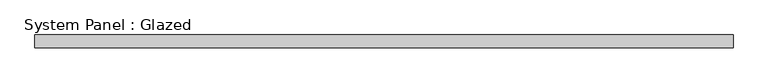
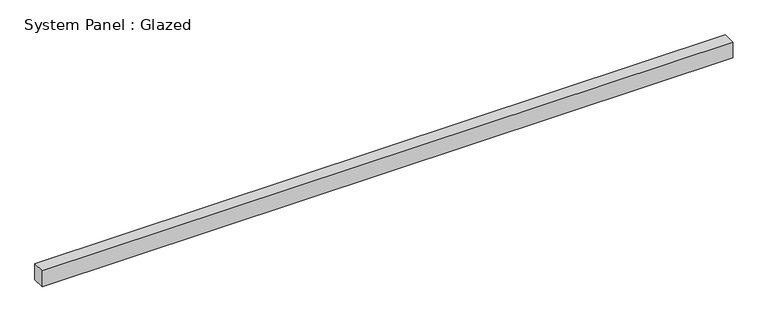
"""IFC4 building model written with IfcOpenShell, lengths in millimetres: plate geometry, System Panel : Glazed."""

from ifc_helpers import new_model, si_unit, origin, origin_with_axes, place, context, project, spatial, polyline, outline, extrude, source, transform, mapped, element, save


def system_panel_glazed_ff3b6933(model_context):
    return source(origin(), model_context, "Body", "SweptSolid", [
        extrude(outline(polyline([(686.1999999, -49.5), (-686.1999999, -49.5), (-686.1999999, -24.5), (686.1999999, -24.5), (686.1999999, -49.5)])), origin_with_axes(), (0.0, 0.0, 1.0), 33.25),
    ])


if __name__ == "__main__":
    model = new_model("IFC4")
    model_context = context("Model", 3, world=origin())
    ifc_project = project(units=[si_unit("LENGTHUNIT", "METRE", prefix="MILLI")], contexts=[model_context])
    site = spatial("IfcSite", under=ifc_project)
    building = spatial("IfcBuilding", under=site)
    placement = place(None, origin())
    system_panel_glazed_shape = system_panel_glazed_ff3b6933(model_context)
    element("IfcPlate", 1, ObjectType="System Panel : Glazed", at=placement, inside=building, context=model_context, shape_type="MappedRepresentation", body=[
        mapped(system_panel_glazed_shape, transform((0.0, 0.0, 0.0), x_axis=(1.0, 0.0, 0.0), y_axis=(0.0, 1.0, 0.0), z_axis=(0.0, 0.0, 1.0))),
    ])
    save(model, "model.ifc")
